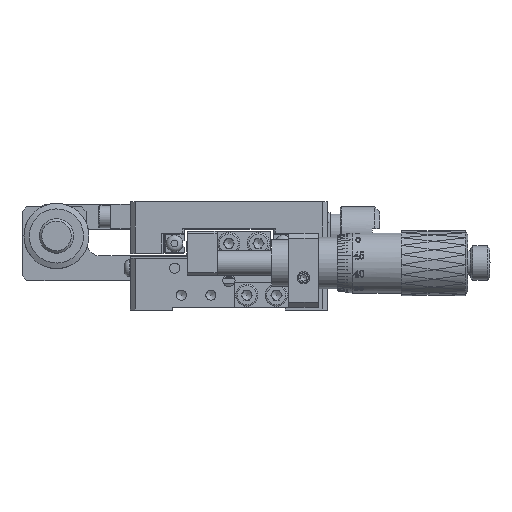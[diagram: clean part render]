
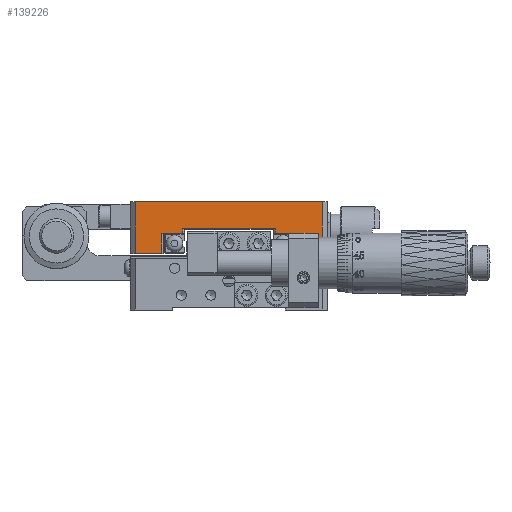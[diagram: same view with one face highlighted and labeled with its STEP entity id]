
A CAD part, top view. The second image highlights one B-rep face of the part: STEP entity #139226.
In plain terms, the highlighted planar face has unit normal (0, 0, 1).
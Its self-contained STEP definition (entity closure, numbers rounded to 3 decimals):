
#5117 = EDGE_CURVE ( 'NONE', #17085, #106876, #105840, .T. ) ;
#6321 = CARTESIAN_POINT ( 'NONE',  ( 10.6, 5., 40. ) ) ;
#7384 = LINE ( 'NONE', #28505, #64818 ) ;
#7718 = CARTESIAN_POINT ( 'NONE',  ( 40., 11.5, 40. ) ) ;
#8421 = DIRECTION ( 'NONE',  ( 1., 0., 0. ) ) ;
#9798 = PLANE ( 'NONE',  #26115 ) ;
#10885 = EDGE_CURVE ( 'NONE', #122415, #17927, #57979, .T. ) ;
#11042 = VECTOR ( 'NONE', #65540, 1000. ) ;
#11353 = CARTESIAN_POINT ( 'NONE',  ( 33., 5., 40. ) ) ;
#12005 = CARTESIAN_POINT ( 'NONE',  ( 33.3, 5., 40. ) ) ;
#12089 = VERTEX_POINT ( 'NONE', #84596 ) ;
#14249 = EDGE_CURVE ( 'NONE', #20374, #122415, #62658, .T. ) ;
#16970 = CARTESIAN_POINT ( 'NONE',  ( 39., 11.5, 40. ) ) ;
#17085 = VERTEX_POINT ( 'NONE', #12005 ) ;
#17927 = VERTEX_POINT ( 'NONE', #23421 ) ;
#19261 = CARTESIAN_POINT ( 'NONE',  ( 10.6, 6., 40. ) ) ;
#20374 = VERTEX_POINT ( 'NONE', #56049 ) ;
#21036 = FACE_OUTER_BOUND ( 'NONE', #25852, .T. ) ;
#22462 = EDGE_CURVE ( 'NONE', #39669, #44057, #56630, .T. ) ;
#22894 = VECTOR ( 'NONE', #112047, 1000. ) ;
#23153 = DIRECTION ( 'NONE',  ( 1., 0., 0. ) ) ;
#23421 = CARTESIAN_POINT ( 'NONE',  ( 6.4, 5., 40. ) ) ;
#25614 = DIRECTION ( 'NONE',  ( 1., 0., 0. ) ) ;
#25852 = EDGE_LOOP ( 'NONE', ( #36359, #43768, #57620, #61837, #135725, #82520, #82938, #100812, #78144, #116191, #36652, #27869 ) ) ;
#26115 = AXIS2_PLACEMENT_3D ( 'NONE', #94306, #128124, #128809 ) ;
#27869 = ORIENTED_EDGE ( 'NONE', *, *, #10885, .T. ) ;
#28505 = CARTESIAN_POINT ( 'NONE',  ( 1., 11.5, 40. ) ) ;
#29650 = EDGE_CURVE ( 'NONE', #84436, #39669, #30977, .T. ) ;
#30977 = LINE ( 'NONE', #116891, #137658 ) ;
#31178 = CARTESIAN_POINT ( 'NONE',  ( 33.3, 11.5, 40. ) ) ;
#35150 = EDGE_CURVE ( 'NONE', #12089, #44189, #81016, .T. ) ;
#35484 = CARTESIAN_POINT ( 'NONE',  ( 29.1, 6., 40. ) ) ;
#36359 = ORIENTED_EDGE ( 'NONE', *, *, #85257, .T. ) ;
#36615 = DIRECTION ( 'NONE',  ( 0., -1., 0. ) ) ;
#36652 = ORIENTED_EDGE ( 'NONE', *, *, #14249, .T. ) ;
#38220 = EDGE_CURVE ( 'NONE', #106876, #12089, #65511, .T. ) ;
#39669 = VERTEX_POINT ( 'NONE', #19261 ) ;
#41150 = DIRECTION ( 'NONE',  ( 0., -1., 0. ) ) ;
#43768 = ORIENTED_EDGE ( 'NONE', *, *, #29650, .T. ) ;
#44057 = VERTEX_POINT ( 'NONE', #75220 ) ;
#44189 = VERTEX_POINT ( 'NONE', #122349 ) ;
#47197 = LINE ( 'NONE', #133126, #64814 ) ;
#53509 = DIRECTION ( 'NONE',  ( 0., 1., 0. ) ) ;
#53618 = LINE ( 'NONE', #11353, #11042 ) ;
#54743 = EDGE_CURVE ( 'NONE', #44057, #55890, #47197, .T. ) ;
#55890 = VERTEX_POINT ( 'NONE', #91991 ) ;
#56049 = CARTESIAN_POINT ( 'NONE',  ( 1., 1., 40. ) ) ;
#56630 = LINE ( 'NONE', #35484, #72629 ) ;
#56850 = VECTOR ( 'NONE', #126661, 1000. ) ;
#57620 = ORIENTED_EDGE ( 'NONE', *, *, #22462, .T. ) ;
#57979 = LINE ( 'NONE', #131961, #95348 ) ;
#58934 = VECTOR ( 'NONE', #83991, 1000. ) ;
#61837 = ORIENTED_EDGE ( 'NONE', *, *, #54743, .T. ) ;
#62658 = LINE ( 'NONE', #119656, #78979 ) ;
#64814 = VECTOR ( 'NONE', #36615, 1000. ) ;
#64818 = VECTOR ( 'NONE', #41150, 1000. ) ;
#65511 = LINE ( 'NONE', #128262, #126807 ) ;
#65540 = DIRECTION ( 'NONE',  ( 1., 0., 0. ) ) ;
#66397 = CARTESIAN_POINT ( 'NONE',  ( 1., 11.5, 40. ) ) ;
#70984 = EDGE_CURVE ( 'NONE', #132569, #44189, #74560, .T. ) ;
#71833 = CARTESIAN_POINT ( 'NONE',  ( 33.3, 1., 40. ) ) ;
#72629 = VECTOR ( 'NONE', #25614, 1000. ) ;
#74560 = LINE ( 'NONE', #7718, #79873 ) ;
#75220 = CARTESIAN_POINT ( 'NONE',  ( 29.4, 6., 40. ) ) ;
#78144 = ORIENTED_EDGE ( 'NONE', *, *, #70984, .F. ) ;
#78979 = VECTOR ( 'NONE', #23153, 1000. ) ;
#79873 = VECTOR ( 'NONE', #8421, 1000. ) ;
#81016 = LINE ( 'NONE', #16970, #22894 ) ;
#82520 = ORIENTED_EDGE ( 'NONE', *, *, #5117, .T. ) ;
#82730 = EDGE_CURVE ( 'NONE', #132569, #20374, #7384, .T. ) ;
#82938 = ORIENTED_EDGE ( 'NONE', *, *, #38220, .T. ) ;
#83991 = DIRECTION ( 'NONE',  ( 0., -1., 0. ) ) ;
#84436 = VERTEX_POINT ( 'NONE', #6321 ) ;
#84596 = CARTESIAN_POINT ( 'NONE',  ( 39., 1., 40. ) ) ;
#85257 = EDGE_CURVE ( 'NONE', #17927, #84436, #53618, .T. ) ;
#91991 = CARTESIAN_POINT ( 'NONE',  ( 29.4, 5., 40. ) ) ;
#94241 = CARTESIAN_POINT ( 'NONE',  ( 33., 5., 40. ) ) ;
#94306 = CARTESIAN_POINT ( 'NONE',  ( 40., 11.5, 40. ) ) ;
#94786 = EDGE_CURVE ( 'NONE', #55890, #17085, #113279, .T. ) ;
#95348 = VECTOR ( 'NONE', #98853, 1000. ) ;
#98853 = DIRECTION ( 'NONE',  ( 0., 1., 0. ) ) ;
#100812 = ORIENTED_EDGE ( 'NONE', *, *, #35150, .T. ) ;
#105840 = LINE ( 'NONE', #31178, #58934 ) ;
#106876 = VERTEX_POINT ( 'NONE', #71833 ) ;
#108489 = DIRECTION ( 'NONE',  ( 1., 0., 0. ) ) ;
#112047 = DIRECTION ( 'NONE',  ( 0., 1., 0. ) ) ;
#113279 = LINE ( 'NONE', #94241, #56850 ) ;
#115547 = CARTESIAN_POINT ( 'NONE',  ( 6.4, 1., 40. ) ) ;
#116191 = ORIENTED_EDGE ( 'NONE', *, *, #82730, .T. ) ;
#116891 = CARTESIAN_POINT ( 'NONE',  ( 10.6, 11.5, 40. ) ) ;
#119656 = CARTESIAN_POINT ( 'NONE',  ( 40., 1., 40. ) ) ;
#122349 = CARTESIAN_POINT ( 'NONE',  ( 39., 11.5, 40. ) ) ;
#122415 = VERTEX_POINT ( 'NONE', #115547 ) ;
#126661 = DIRECTION ( 'NONE',  ( 1., 0., 0. ) ) ;
#126807 = VECTOR ( 'NONE', #108489, 1000. ) ;
#128124 = DIRECTION ( 'NONE',  ( 0., 0., -1. ) ) ;
#128262 = CARTESIAN_POINT ( 'NONE',  ( 40., 1., 40. ) ) ;
#128809 = DIRECTION ( 'NONE',  ( -1., 0., 0. ) ) ;
#131961 = CARTESIAN_POINT ( 'NONE',  ( 6.4, 11.5, 40. ) ) ;
#132569 = VERTEX_POINT ( 'NONE', #66397 ) ;
#133126 = CARTESIAN_POINT ( 'NONE',  ( 29.4, 11.5, 40. ) ) ;
#135725 = ORIENTED_EDGE ( 'NONE', *, *, #94786, .T. ) ;
#137658 = VECTOR ( 'NONE', #53509, 1000. ) ;
#139226 = ADVANCED_FACE ( 'NONE', ( #21036 ), #9798, .F. ) ;
